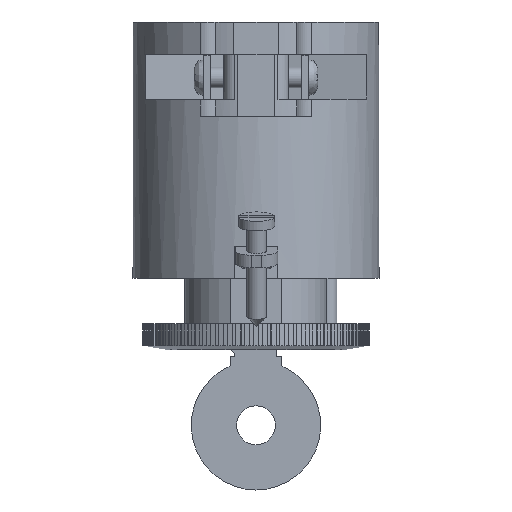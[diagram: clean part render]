
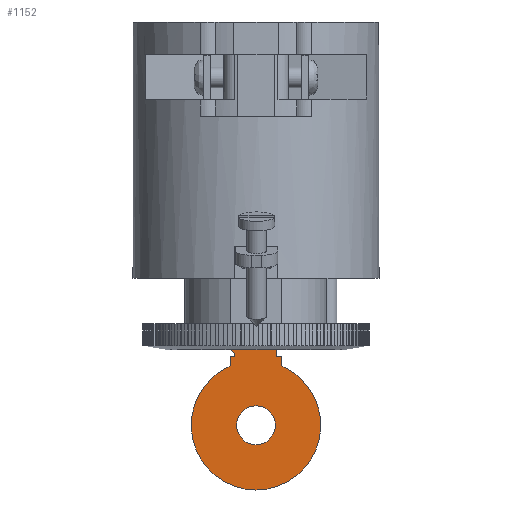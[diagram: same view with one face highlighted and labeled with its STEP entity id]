
A CAD part, left-side view. The second image highlights one B-rep face of the part: STEP entity #1152.
In plain terms, the highlighted planar face has unit normal (-1, 0, 0).
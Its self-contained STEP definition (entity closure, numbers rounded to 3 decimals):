
#355=PLANE('',#11919);
#669=FACE_BOUND('',#2442,.T.);
#670=FACE_BOUND('',#2443,.T.);
#1152=ADVANCED_FACE('',(#669,#670),#355,.F.);
#2442=EDGE_LOOP('',(#5379,#5380,#5381,#5382,#5383,#5384,#5385,#5386,#5387,
#5388));
#2443=EDGE_LOOP('',(#5389));
#2924=CIRCLE('',#11917,10.);
#2925=CIRCLE('',#11918,3.);
#5379=ORIENTED_EDGE('',*,*,#8593,.F.);
#5380=ORIENTED_EDGE('',*,*,#8579,.T.);
#5381=ORIENTED_EDGE('',*,*,#8594,.F.);
#5382=ORIENTED_EDGE('',*,*,#8595,.F.);
#5383=ORIENTED_EDGE('',*,*,#8596,.F.);
#5384=ORIENTED_EDGE('',*,*,#8597,.F.);
#5385=ORIENTED_EDGE('',*,*,#8598,.F.);
#5386=ORIENTED_EDGE('',*,*,#8599,.F.);
#5387=ORIENTED_EDGE('',*,*,#8600,.F.);
#5388=ORIENTED_EDGE('',*,*,#8591,.F.);
#5389=ORIENTED_EDGE('',*,*,#8601,.T.);
#7093=VERTEX_POINT('',#17914);
#7095=VERTEX_POINT('',#17918);
#7105=VERTEX_POINT('',#17942);
#7106=VERTEX_POINT('',#17944);
#7107=VERTEX_POINT('',#17949);
#7108=VERTEX_POINT('',#17951);
#7109=VERTEX_POINT('',#17953);
#7110=VERTEX_POINT('',#17955);
#7111=VERTEX_POINT('',#17957);
#7112=VERTEX_POINT('',#17959);
#7113=VERTEX_POINT('',#17962);
#8579=EDGE_CURVE('',#7093,#7095,#9874,.T.);
#8591=EDGE_CURVE('',#7105,#7106,#9884,.T.);
#8593=EDGE_CURVE('',#7093,#7105,#9886,.T.);
#8594=EDGE_CURVE('',#7107,#7095,#9887,.T.);
#8595=EDGE_CURVE('',#7108,#7107,#9888,.T.);
#8596=EDGE_CURVE('',#7109,#7108,#9889,.T.);
#8597=EDGE_CURVE('',#7110,#7109,#9890,.T.);
#8598=EDGE_CURVE('',#7111,#7110,#2924,.T.);
#8599=EDGE_CURVE('',#7112,#7111,#9891,.T.);
#8600=EDGE_CURVE('',#7106,#7112,#9892,.T.);
#8601=EDGE_CURVE('',#7113,#7113,#2925,.T.);
#9874=LINE('',#17919,#11006);
#9884=LINE('',#17943,#11016);
#9886=LINE('',#17947,#11018);
#9887=LINE('',#17948,#11019);
#9888=LINE('',#17950,#11020);
#9889=LINE('',#17952,#11021);
#9890=LINE('',#17954,#11022);
#9891=LINE('',#17958,#11023);
#9892=LINE('',#17960,#11024);
#11006=VECTOR('',#14383,1.);
#11016=VECTOR('',#14401,1.);
#11018=VECTOR('',#14405,1.);
#11019=VECTOR('',#14406,1.);
#11020=VECTOR('',#14407,1.);
#11021=VECTOR('',#14408,1.);
#11022=VECTOR('',#14409,1.);
#11023=VECTOR('',#14412,1.);
#11024=VECTOR('',#14413,1.);
#11917=AXIS2_PLACEMENT_3D('',#17956,#14410,#14411);
#11918=AXIS2_PLACEMENT_3D('',#17961,#14414,#14415);
#11919=AXIS2_PLACEMENT_3D('',#17963,#14416,#14417);
#14383=DIRECTION('',(0.,0.,-1.));
#14401=DIRECTION('',(0.,0.,-1.));
#14405=DIRECTION('',(0.,-1.,0.));
#14406=DIRECTION('',(0.,0.805,0.594));
#14407=DIRECTION('',(0.,0.,1.));
#14408=DIRECTION('',(0.,-1.,0.));
#14409=DIRECTION('',(0.,0.,1.));
#14410=DIRECTION('',(1.,0.,0.));
#14411=DIRECTION('',(0.,1.,0.));
#14412=DIRECTION('',(0.,0.,-1.));
#14413=DIRECTION('',(0.,-1.,0.));
#14414=DIRECTION('',(1.,0.,0.));
#14415=DIRECTION('',(0.,1.,0.));
#14416=DIRECTION('',(1.,0.,0.));
#14417=DIRECTION('',(0.,0.,-1.));
#17914=CARTESIAN_POINT('',(-1.5,4.,-18.4));
#17918=CARTESIAN_POINT('',(-1.5,4.,-18.404));
#17919=CARTESIAN_POINT('',(-1.5,4.,-0.404));
#17942=CARTESIAN_POINT('',(-1.5,-3.1,-18.4));
#17943=CARTESIAN_POINT('',(-1.5,-3.1,-0.404));
#17944=CARTESIAN_POINT('',(-1.5,-3.1,-19.493));
#17947=CARTESIAN_POINT('',(-1.5,0.,-18.4));
#17948=CARTESIAN_POINT('',(-1.5,3.262,-18.949));
#17949=CARTESIAN_POINT('',(-1.5,3.262,-18.949));
#17950=CARTESIAN_POINT('',(-1.5,3.262,-19.524));
#17951=CARTESIAN_POINT('',(-1.5,3.262,-19.524));
#17952=CARTESIAN_POINT('',(-1.5,4.,-19.524));
#17953=CARTESIAN_POINT('',(-1.5,4.,-19.524));
#17954=CARTESIAN_POINT('',(-1.5,4.,-20.916));
#17955=CARTESIAN_POINT('',(-1.5,4.,-20.916));
#17956=CARTESIAN_POINT('',(-1.5,0.,-30.081));
#17957=CARTESIAN_POINT('',(-1.5,-4.,-20.916));
#17958=CARTESIAN_POINT('',(-1.5,-4.,-19.493));
#17959=CARTESIAN_POINT('',(-1.5,-4.,-19.493));
#17960=CARTESIAN_POINT('',(-1.5,-3.1,-19.493));
#17961=CARTESIAN_POINT('',(-1.5,0.,-30.081));
#17962=CARTESIAN_POINT('',(-1.5,3.,-30.081));
#17963=CARTESIAN_POINT('',(-1.5,4.,-0.404));
